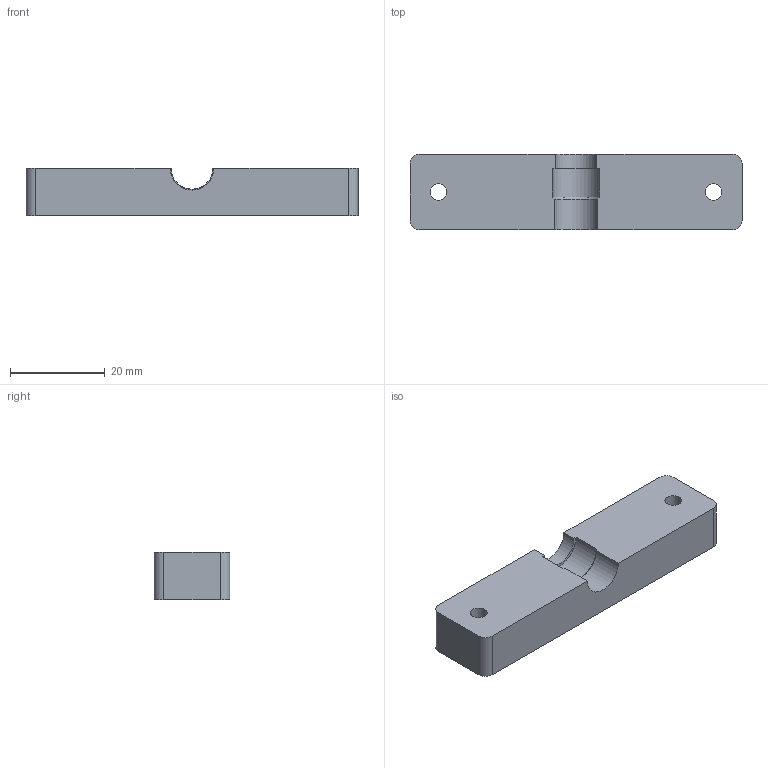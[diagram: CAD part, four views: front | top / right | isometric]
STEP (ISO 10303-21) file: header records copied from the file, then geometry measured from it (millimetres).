
FILE_DESCRIPTION(/* description */ (''),/* implementation_level */ '2;1');
FILE_NAME(/* name */ 'V:\Flow\Inventor\Kontinuierliche Spritzenpumpe\Halterung Spritze oben.stp',/* time_stamp */ '2019-12-20T10:23:19+01:00',/* author */ ('JN'),/* organization */ (''),/* preprocessor_version */ 'ST-DEVELOPER v17',/* originating_system */ 'Autodesk Inventor 2018',/* authorisation */ '');
FILE_SCHEMA (('AUTOMOTIVE_DESIGN { 1 0 10303 214 3 1 1 }'));
Length unit declared in the file: millimetre
Products named in the file (1): Halterung Spritze oben
Bounding box: 70 x 16 x 10 mm (x, y, z)
Volume: 10411.9 mm3; surface area: 4134.1 mm2
Topology: 1 solids, 1 shells, 18 faces, 48 edges, 32 vertices
Faces by surface type: cylinder 9, plane 8, cone 1
Full cylindrical faces by diameter (mm): 3.5 x2
Entity records: 617 total; most frequent: DIRECTION 104, CARTESIAN_POINT 99, ORIENTED_EDGE 96, EDGE_CURVE 48, AXIS2_PLACEMENT_3D 37, VERTEX_POINT 32, LINE 30, VECTOR 30
